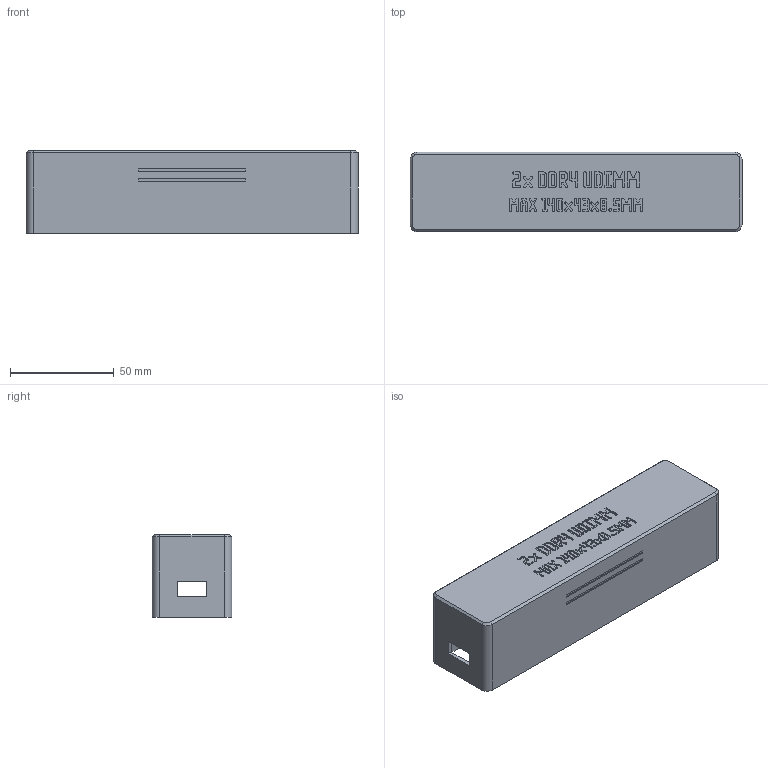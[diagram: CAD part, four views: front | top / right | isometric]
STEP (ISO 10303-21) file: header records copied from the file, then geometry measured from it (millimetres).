
FILE_DESCRIPTION(('Open CASCADE Model'),'2;1');
FILE_NAME('mailer_lid','2026-11-03T16:11:12',('Author'),('Open CASCADE') ,'Open CASCADE STEP processor 8.0','build123d','Unknown');
FILE_SCHEMA(('AUTOMOTIVE_DESIGN { 1 0 10303 214 1 1 1 1 }'));
Products named in the file (1): mailer_lid
Bounding box: 160 x 38.4 x 39.8 mm (x, y, z)
Volume: 81186 mm3; surface area: 46163.3 mm2
Topology: 1 solids, 1 shells, 2561 faces, 7549 edges, 5030 vertices
Faces by surface type: plane 2549, cylinder 8, cone 4
Entity records: 176686 total; most frequent: CARTESIAN_POINT 35315, DIRECTION 22775, LINE 17607, VECTOR 17607, ORIENTED_EDGE 15098, PCURVE 15098, DEFINITIONAL_REPRESENTATION 15098, EDGE_CURVE 7549
